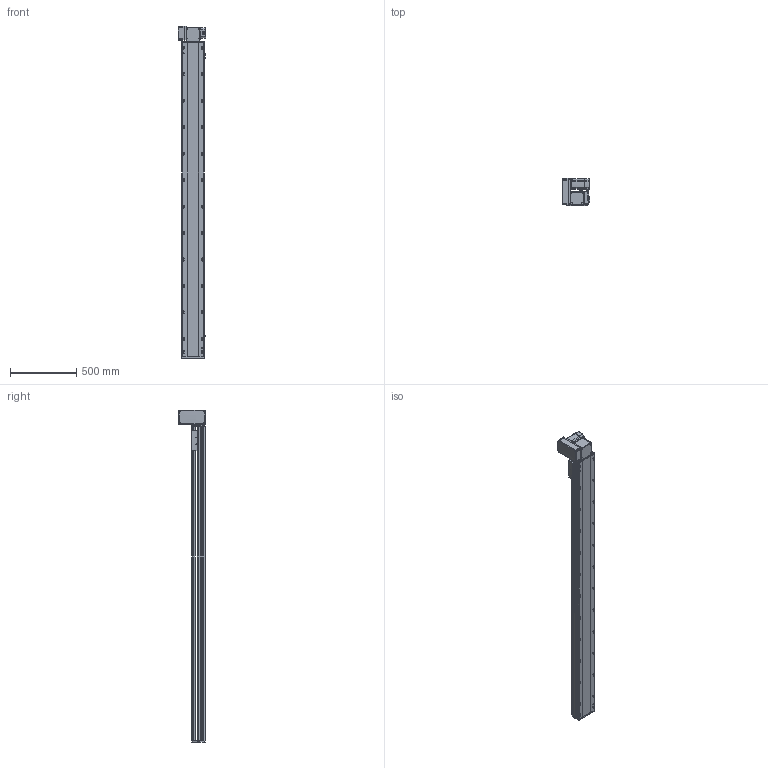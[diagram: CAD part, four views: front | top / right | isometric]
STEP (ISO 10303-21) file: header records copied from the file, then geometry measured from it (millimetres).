
FILE_DESCRIPTION (( 'STEP AP214' ), '1' );
FILE_NAME ('RTB17S-XX-2100-LW-M75-C4.STEP', '2025-12-12T01:11:22', ( '' ), ( '' ), 'SwSTEP 2.0', 'SolidWorks 2018', '' );
FILE_SCHEMA (( 'AUTOMOTIVE_DESIGN' ));
Length unit declared in the file: millimetre
Products named in the file (15): RTB17S-XX-2100-LW-M75-C4; RTB17S-LW-々湍釱蚾饜-750W^RTB17S-XX-XX-LW-M75-C4; 750W萇儂^RTB17S-XX-XX-LW-M75-C4; RTH13-BL-012覜茼え俋离^RTB17S-賑釱_RTB17S-XX-XX-LW-M75-C4; RTB17S-賑釱^RTB17S-XX-XX-LW-M75-C4; RTB17-R-011菁釱^RTB17S-XX-XX-LW-M75-C4; RTB22S-GY-005P^RTB17S-LW-々湍釱蚾饜-750W_RTB17S-XX-XX-LW-M75-C4; RTB17S-L-014-T20-P75--々湍釱^RTB17S-LW-々湍釱蚾饜-750W_RTB17S-XX-XX-LW-M75-C4; RTB22S-GY-017P^RTB17S-LW-々湍釱蚾饜-750W_RTB17S-XX-XX-LW-M75-C4; RTB22S-GY-008-M75--萇儂啣^RTB17S-LW-々湍釱蚾饜-750W_RTB17S-XX-XX-LW-M75-C4; RTB17S-L-007奻裔^RTB17S-XX-XX-LW-M75-C4; RTB22S-GY-018P^RTB17S-LW-々湍釱蚾饜-750W_RTB17S-XX-XX-LW-M75-C4; EE672^RTB17S-XX-XX-LW-M75-C4; RTB17S-L-004-賑釱^RTB17S-賑釱_RTB17S-XX-XX-LW-M75-C4; RTB17S-L-001-耜醱啣^RTB17S-XX-XX-LW-M75-C4
Assembly tree (17 placements, depth 3):
  RTB17S-XX-2100-LW-M75-C4
    RTB17-R-011菁釱^RTB17S-XX-XX-LW-M75-C4
    EE672^RTB17S-XX-XX-LW-M75-C4  x3
    RTB17S-L-001-耜醱啣^RTB17S-XX-XX-LW-M75-C4
    RTB17S-賑釱^RTB17S-XX-XX-LW-M75-C4
      RTB17S-L-004-賑釱^RTB17S-賑釱_RTB17S-XX-XX-LW-M75-C4
      RTH13-BL-012覜茼え俋离^RTB17S-賑釱_RTB17S-XX-XX-LW-M75-C4
    RTB17S-L-007奻裔^RTB17S-XX-XX-LW-M75-C4
    750W萇儂^RTB17S-XX-XX-LW-M75-C4
    RTB17S-LW-々湍釱蚾饜-750W^RTB17S-XX-XX-LW-M75-C4
      RTB17S-L-014-T20-P75--々湍釱^RTB17S-LW-々湍釱蚾饜-750W_RTB17S-XX-XX-LW-M75-C4
      RTB22S-GY-005P^RTB17S-LW-々湍釱蚾饜-750W_RTB17S-XX-XX-LW-M75-C4
      RTB22S-GY-017P^RTB17S-LW-々湍釱蚾饜-750W_RTB17S-XX-XX-LW-M75-C4  x2
      RTB22S-GY-008-M75--萇儂啣^RTB17S-LW-々湍釱蚾饜-750W_RTB17S-XX-XX-LW-M75-C4
      RTB22S-GY-018P^RTB17S-LW-々湍釱蚾饜-750W_RTB17S-XX-XX-LW-M75-C4
Bounding box: 210.4 x 201.5 x 2507.5 mm (x, y, z)
Volume: 19074792.7 mm3; surface area: 3422980.5 mm2
Topology: 17 solids, 17 shells, 2185 faces, 6106 edges, 3950 vertices
Faces by surface type: plane 982, cylinder 787, bspline 294, cone 110, sphere 8, torus 4
Entity records: 62710 total; most frequent: CARTESIAN_POINT 18570, ORIENTED_EDGE 9056, DIRECTION 8402, EDGE_CURVE 4528, AXIS2_PLACEMENT_3D 2970, VERTEX_POINT 2954, VECTOR 2462, LINE 2462
